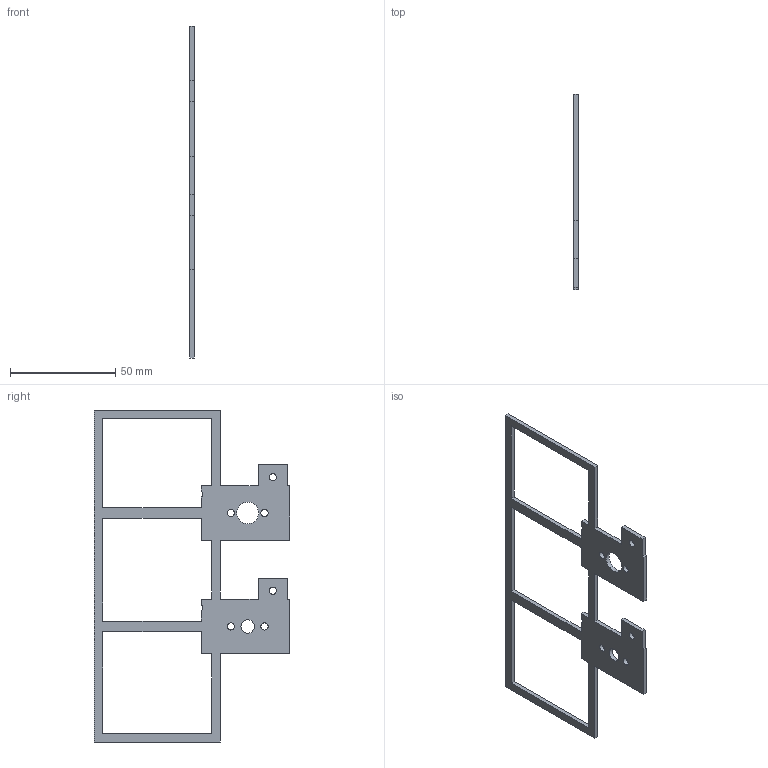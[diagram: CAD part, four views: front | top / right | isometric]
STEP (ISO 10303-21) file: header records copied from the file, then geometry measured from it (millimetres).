
FILE_DESCRIPTION(('Open CASCADE Model'),'2;1');
FILE_NAME('Open CASCADE Shape Model','2026-09-11T00:16:40',('Author'),( 'Open CASCADE'),'Open CASCADE STEP processor 7.9','Open CASCADE 7.9' ,'Unknown');
FILE_SCHEMA(('AUTOMOTIVE_DESIGN { 1 0 10303 214 1 1 1 1 }'));
Length unit declared in the file: millimetre
Products named in the file (1): Open CASCADE STEP translator 7.9 2
Bounding box: 2 x 93 x 158 mm (x, y, z)
Volume: 8463.4 mm3; surface area: 11099 mm2
Topology: 1 solids, 1 shells, 54 faces, 156 edges, 104 vertices
Faces by surface type: plane 44, cylinder 10
Full cylindrical faces by diameter (mm): 3.4 x6, 6.4 x1, 10.4 x1
Entity records: 3842 total; most frequent: CARTESIAN_POINT 627, DIRECTION 598, LINE 428, VECTOR 428, ORIENTED_EDGE 312, PCURVE 312, DEFINITIONAL_REPRESENTATION 312, EDGE_CURVE 156
